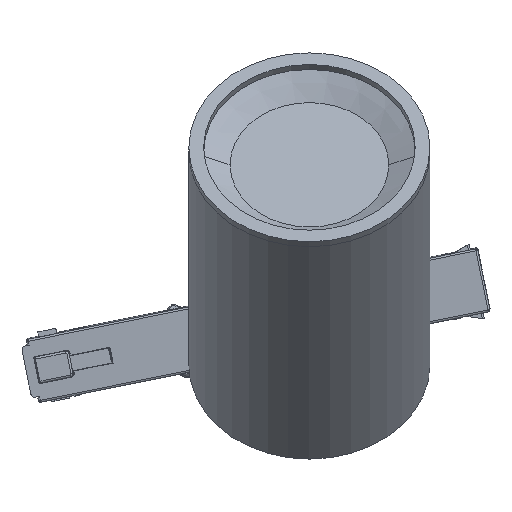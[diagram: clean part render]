
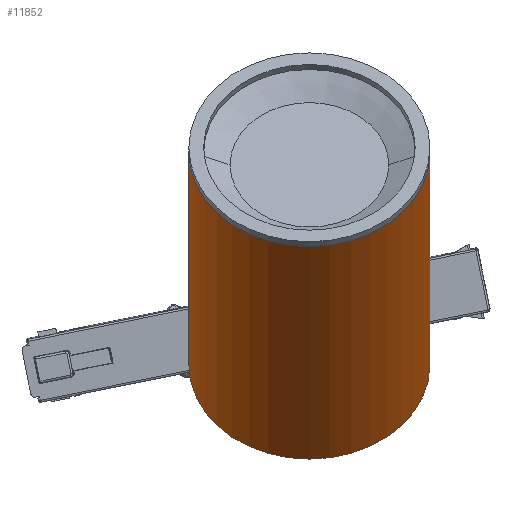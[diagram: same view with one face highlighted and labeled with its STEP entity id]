
A CAD part, left-side view. The second image highlights one B-rep face of the part: STEP entity #11852.
In plain terms, the highlighted cylindrical face has radius 30 mm (diameter 60 mm), a partial arc.
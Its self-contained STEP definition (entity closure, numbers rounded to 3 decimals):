
#193 = DIRECTION ( 'NONE',  ( 0., 0., -1. ) ) ;
#1741 = VECTOR ( 'NONE', #21694, 1000. ) ;
#2467 = EDGE_LOOP ( 'NONE', ( #29867, #18132, #53588, #41576 ) ) ;
#3408 = VERTEX_POINT ( 'NONE', #6309 ) ;
#4821 = CARTESIAN_POINT ( 'NONE',  ( 0., 65., 0. ) ) ;
#5065 = LINE ( 'NONE', #5342, #29000 ) ;
#5342 = CARTESIAN_POINT ( 'NONE',  ( 0., 65., -30. ) ) ;
#6088 = CIRCLE ( 'NONE', #49728, 30. ) ;
#6309 = CARTESIAN_POINT ( 'NONE',  ( 0., 0., 30. ) ) ;
#7717 = DIRECTION ( 'NONE',  ( 0., 0., 1. ) ) ;
#8434 = EDGE_CURVE ( 'NONE', #54021, #9251, #30483, .T. ) ;
#8923 = CYLINDRICAL_SURFACE ( 'NONE', #43241, 30. ) ;
#9251 = VERTEX_POINT ( 'NONE', #20370 ) ;
#11462 = CARTESIAN_POINT ( 'NONE',  ( 0., 0., 0. ) ) ;
#11852 = ADVANCED_FACE ( 'NONE', ( #48771 ), #8923, .T. ) ;
#11987 = EDGE_CURVE ( 'NONE', #3408, #15432, #6088, .T. ) ;
#14899 = CARTESIAN_POINT ( 'NONE',  ( 0., 0., -30. ) ) ;
#15432 = VERTEX_POINT ( 'NONE', #14899 ) ;
#17627 = EDGE_CURVE ( 'NONE', #9251, #15432, #5065, .T. ) ;
#18132 = ORIENTED_EDGE ( 'NONE', *, *, #32201, .T. ) ;
#20370 = CARTESIAN_POINT ( 'NONE',  ( 0., 85., -30. ) ) ;
#21694 = DIRECTION ( 'NONE',  ( 0., -1., 0. ) ) ;
#26326 = DIRECTION ( 'NONE',  ( 0., 1., 0. ) ) ;
#28926 = DIRECTION ( 'NONE',  ( 0., 1., 0. ) ) ;
#29000 = VECTOR ( 'NONE', #44377, 1000. ) ;
#29867 = ORIENTED_EDGE ( 'NONE', *, *, #8434, .F. ) ;
#30483 = CIRCLE ( 'NONE', #41645, 30. ) ;
#32201 = EDGE_CURVE ( 'NONE', #54021, #3408, #35386, .T. ) ;
#33322 = DIRECTION ( 'NONE',  ( 0., 0., 1. ) ) ;
#35386 = LINE ( 'NONE', #38911, #1741 ) ;
#38911 = CARTESIAN_POINT ( 'NONE',  ( 0., 65., 30. ) ) ;
#40076 = DIRECTION ( 'NONE',  ( 0., -1., 0. ) ) ;
#41576 = ORIENTED_EDGE ( 'NONE', *, *, #17627, .F. ) ;
#41645 = AXIS2_PLACEMENT_3D ( 'NONE', #47569, #26326, #7717 ) ;
#43241 = AXIS2_PLACEMENT_3D ( 'NONE', #4821, #40076, #193 ) ;
#44377 = DIRECTION ( 'NONE',  ( 0., -1., 0. ) ) ;
#47569 = CARTESIAN_POINT ( 'NONE',  ( 0., 85., 0. ) ) ;
#48771 = FACE_OUTER_BOUND ( 'NONE', #2467, .T. ) ;
#49728 = AXIS2_PLACEMENT_3D ( 'NONE', #11462, #28926, #33322 ) ;
#53588 = ORIENTED_EDGE ( 'NONE', *, *, #11987, .T. ) ;
#54021 = VERTEX_POINT ( 'NONE', #56467 ) ;
#56467 = CARTESIAN_POINT ( 'NONE',  ( 0., 85., 30. ) ) ;
